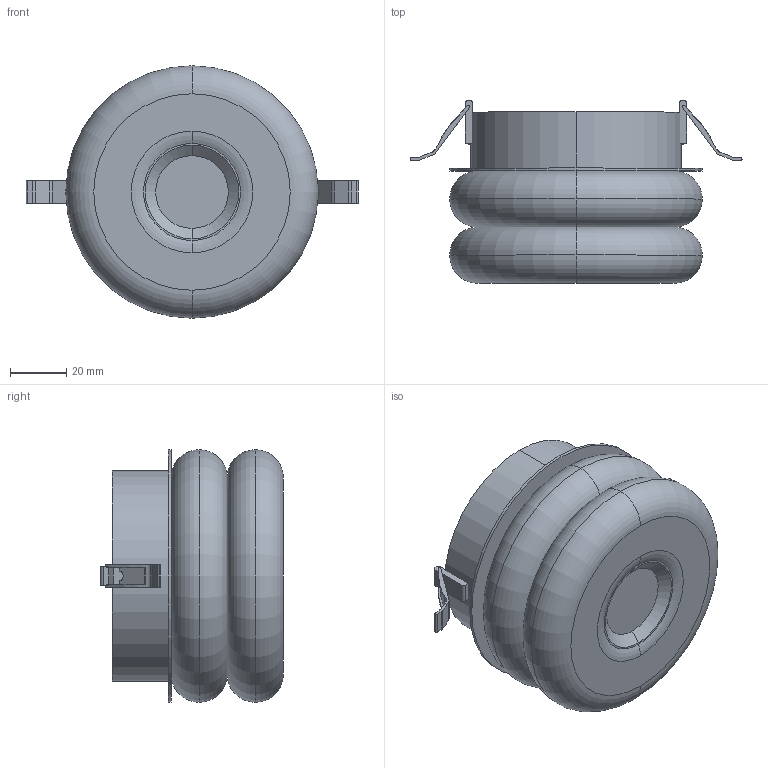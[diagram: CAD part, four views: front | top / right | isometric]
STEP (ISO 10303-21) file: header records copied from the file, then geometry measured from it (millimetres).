
FILE_DESCRIPTION (( 'STEP AP214' ), '1' );
FILE_NAME ('MART_2.STEP', '2026-02-06T16:21:51', ( '' ), ( '' ), 'SwSTEP 2.0', 'SolidWorks 2023', '' );
FILE_SCHEMA (( 'AUTOMOTIVE_DESIGN' ));
Length unit declared in the file: millimetre
Products named in the file (3): floron_empotrable; marmol Arq; MART_2
Assembly tree (3 placements, depth 2):
  MART_2
    floron_empotrable
    marmol Arq  x2
Bounding box: 118.33 x 65.1 x 90 mm (x, y, z)
Volume: 244583.5 mm3; surface area: 55716.6 mm2
Topology: 7 solids, 7 shells, 112 faces, 270 edges, 178 vertices
Faces by surface type: plane 60, cylinder 34, torus 12, cone 4, bspline 2
Entity records: 3180 total; most frequent: CARTESIAN_POINT 588, DIRECTION 540, ORIENTED_EDGE 496, EDGE_CURVE 248, AXIS2_PLACEMENT_3D 196, VERTEX_POINT 164, VECTOR 148, LINE 148
